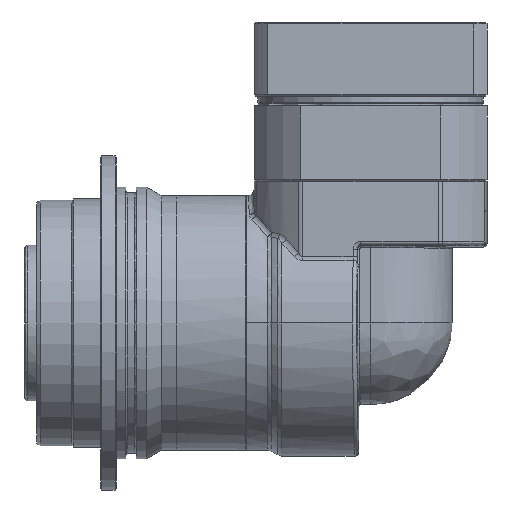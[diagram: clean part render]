
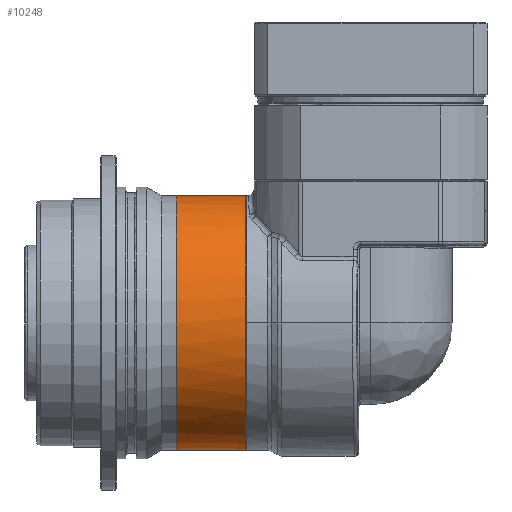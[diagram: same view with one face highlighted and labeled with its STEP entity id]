
A CAD part, front view. The second image highlights one B-rep face of the part: STEP entity #10248.
In plain terms, the highlighted cylindrical face has radius 32.75 mm (diameter 65.5 mm), a partial arc.
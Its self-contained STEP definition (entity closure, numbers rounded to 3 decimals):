
#413 = CARTESIAN_POINT ( 'NONE',  ( -68.665, -37.472, 83.909 ) ) ;
#2135 = CARTESIAN_POINT ( 'NONE',  ( -68.665, -46.897, 26.792 ) ) ;
#5564 = VERTEX_POINT ( 'NONE', #44626 ) ;
#7528 = CARTESIAN_POINT ( 'NONE',  ( -68.665, -59.67, 54.975 ) ) ;
#7843 = CARTESIAN_POINT ( 'NONE',  ( -68.665, -58.622, 44.34 ) ) ;
#8548 = CARTESIAN_POINT ( 'NONE',  ( -86.465, -26.92, 52.831 ) ) ;
#8748 = VERTEX_POINT ( 'NONE', #16138 ) ;
#10248 = ADVANCED_FACE ( 'NONE', ( #19242 ), #28450, .T. ) ;
#11354 = CARTESIAN_POINT ( 'NONE',  ( -86.465, -26.92, 85.581 ) ) ;
#11686 = CARTESIAN_POINT ( 'NONE',  ( -68.665, -31.206, 20.293 ) ) ;
#12297 = CARTESIAN_POINT ( 'NONE',  ( -68.665, -52.959, 72.809 ) ) ;
#12920 = CARTESIAN_POINT ( 'NONE',  ( -68.665, -26.92, 85.581 ) ) ;
#13566 = CARTESIAN_POINT ( 'NONE',  ( -86.465, -26.92, 52.831 ) ) ;
#13941 = DIRECTION ( 'NONE',  ( -1., 0., 0. ) ) ;
#14233 = DIRECTION ( 'NONE',  ( 0., 0., 1. ) ) ;
#14708 = CARTESIAN_POINT ( 'NONE',  ( -68.665, -43.332, 81.253 ) ) ;
#16138 = CARTESIAN_POINT ( 'NONE',  ( -68.665, -26.92, 20.081 ) ) ;
#16738 = CARTESIAN_POINT ( 'NONE',  ( -68.665, -56.356, 38.318 ) ) ;
#17052 = CARTESIAN_POINT ( 'NONE',  ( -68.665, -52.959, 32.854 ) ) ;
#17261 = DIRECTION ( 'NONE',  ( -1., 0., 0. ) ) ;
#19242 = FACE_OUTER_BOUND ( 'NONE', #61556, .T. ) ;
#20105 = B_SPLINE_CURVE_WITH_KNOTS ( 'NONE', 3,
 ( #21787, #22105, #11686, #31039, #56014, #26259, #45577, #2135, #40839, #46500, #17052, #60128, #16738, #36404, #7843, #36098, #41171, #7528, #55396, #31341, #50647, #55705, #60756, #12297, #46199, #36696, #27191, #14708, #34065, #413, #56335, #52711, #32272, #12920 ),
 .UNSPECIFIED., .F., .F.,
 ( 4, 2, 2, 2, 2, 2, 2, 2, 2, 2, 2, 2, 2, 2, 2, 2, 4 ),
 ( 0., 0.063, 0.125, 0.188, 0.25, 0.313, 0.375, 0.438, 0.5, 0.563, 0.625, 0.688, 0.75, 0.813, 0.875, 0.938, 1. ),
 .UNSPECIFIED. ) ;
#20386 = EDGE_CURVE ( 'NONE', #49804, #42386, #24989, .T. ) ;
#21787 = CARTESIAN_POINT ( 'NONE',  ( -68.665, -26.92, 20.081 ) ) ;
#21835 = EDGE_CURVE ( 'NONE', #8748, #5564, #37246, .T. ) ;
#22105 = CARTESIAN_POINT ( 'NONE',  ( -68.665, -29.063, 20.081 ) ) ;
#24615 = EDGE_CURVE ( 'NONE', #8748, #49804, #20105, .T. ) ;
#24989 = LINE ( 'NONE', #44322, #39322 ) ;
#26259 = CARTESIAN_POINT ( 'NONE',  ( -68.665, -41.433, 23.395 ) ) ;
#27191 = CARTESIAN_POINT ( 'NONE',  ( -68.665, -46.897, 78.871 ) ) ;
#27196 = ORIENTED_EDGE ( 'NONE', *, *, #21835, .F. ) ;
#28450 = CYLINDRICAL_SURFACE ( 'NONE', #28612, 32.75 ) ;
#28612 = AXIS2_PLACEMENT_3D ( 'NONE', #13566, #47771, #57900 ) ;
#30053 = CIRCLE ( 'NONE', #47261, 32.75 ) ;
#31039 = CARTESIAN_POINT ( 'NONE',  ( -68.665, -35.411, 21.129 ) ) ;
#31341 = CARTESIAN_POINT ( 'NONE',  ( -68.665, -58.622, 61.323 ) ) ;
#32272 = CARTESIAN_POINT ( 'NONE',  ( -68.665, -29.063, 85.581 ) ) ;
#33550 = DIRECTION ( 'NONE',  ( -1., 0., 0. ) ) ;
#34065 = CARTESIAN_POINT ( 'NONE',  ( -68.665, -41.433, 82.268 ) ) ;
#36098 = CARTESIAN_POINT ( 'NONE',  ( -68.665, -59.458, 48.545 ) ) ;
#36404 = CARTESIAN_POINT ( 'NONE',  ( -68.665, -57.997, 42.279 ) ) ;
#36696 = CARTESIAN_POINT ( 'NONE',  ( -68.665, -48.562, 77.505 ) ) ;
#37246 = LINE ( 'NONE', #47356, #43744 ) ;
#37754 = CARTESIAN_POINT ( 'NONE',  ( -68.665, -26.92, 85.581 ) ) ;
#38031 = EDGE_CURVE ( 'NONE', #5564, #42386, #30053, .T. ) ;
#39322 = VECTOR ( 'NONE', #33550, 1000. ) ;
#40839 = CARTESIAN_POINT ( 'NONE',  ( -68.665, -48.562, 28.158 ) ) ;
#41171 = CARTESIAN_POINT ( 'NONE',  ( -68.665, -59.67, 50.688 ) ) ;
#42386 = VERTEX_POINT ( 'NONE', #11354 ) ;
#43744 = VECTOR ( 'NONE', #17261, 1000. ) ;
#44322 = CARTESIAN_POINT ( 'NONE',  ( -86.465, -26.92, 85.581 ) ) ;
#44626 = CARTESIAN_POINT ( 'NONE',  ( -86.465, -26.92, 20.081 ) ) ;
#45577 = CARTESIAN_POINT ( 'NONE',  ( -68.665, -43.332, 24.41 ) ) ;
#46199 = CARTESIAN_POINT ( 'NONE',  ( -68.665, -51.593, 74.474 ) ) ;
#46500 = CARTESIAN_POINT ( 'NONE',  ( -68.665, -51.593, 31.189 ) ) ;
#47261 = AXIS2_PLACEMENT_3D ( 'NONE', #8548, #13941, #14233 ) ;
#47356 = CARTESIAN_POINT ( 'NONE',  ( -86.465, -26.92, 20.081 ) ) ;
#47771 = DIRECTION ( 'NONE',  ( -1., 0., 0. ) ) ;
#49804 = VERTEX_POINT ( 'NONE', #37754 ) ;
#50647 = CARTESIAN_POINT ( 'NONE',  ( -68.665, -57.997, 63.384 ) ) ;
#52711 = CARTESIAN_POINT ( 'NONE',  ( -68.665, -31.206, 85.37 ) ) ;
#55396 = CARTESIAN_POINT ( 'NONE',  ( -68.665, -59.458, 57.118 ) ) ;
#55705 = CARTESIAN_POINT ( 'NONE',  ( -68.665, -56.356, 67.345 ) ) ;
#56014 = CARTESIAN_POINT ( 'NONE',  ( -68.665, -37.472, 21.754 ) ) ;
#56335 = CARTESIAN_POINT ( 'NONE',  ( -68.665, -35.411, 84.534 ) ) ;
#56344 = ORIENTED_EDGE ( 'NONE', *, *, #38031, .F. ) ;
#57900 = DIRECTION ( 'NONE',  ( 0., 0., 1. ) ) ;
#58772 = ORIENTED_EDGE ( 'NONE', *, *, #24615, .T. ) ;
#58868 = ORIENTED_EDGE ( 'NONE', *, *, #20386, .T. ) ;
#60128 = CARTESIAN_POINT ( 'NONE',  ( -68.665, -55.341, 36.419 ) ) ;
#60756 = CARTESIAN_POINT ( 'NONE',  ( -68.665, -55.341, 69.244 ) ) ;
#61556 = EDGE_LOOP ( 'NONE', ( #27196, #58772, #58868, #56344 ) ) ;
